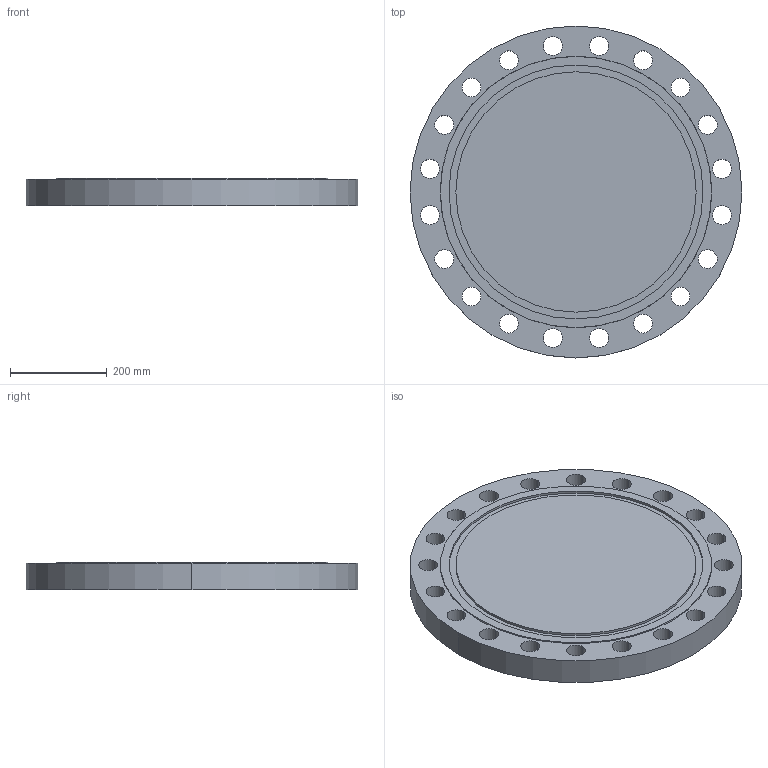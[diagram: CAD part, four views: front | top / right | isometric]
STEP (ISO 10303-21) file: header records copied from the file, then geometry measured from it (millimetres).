
FILE_DESCRIPTION (( 'STEP AP214' ), '1' );
FILE_NAME ('PN40 DN450 Type 05 - Type D Face.STEP', '2018-12-29T02:45:57', ( '' ), ( '' ), 'SwSTEP 2.0', 'SolidWorks 2019', '' );
FILE_SCHEMA (( 'AUTOMOTIVE_DESIGN' ));
Length unit declared in the file: millimetre
Products named in the file (1): PN40 DN450 Type 05 - Type D Face
Bounding box: 685 x 685 x 57 mm (x, y, z)
Volume: 19336082.8 mm3; surface area: 961383.5 mm2
Topology: 1 solids, 1 shells, 53 faces, 144 edges, 96 vertices
Faces by surface type: cylinder 46, plane 5, cone 2
Entity records: 1848 total; most frequent: DIRECTION 348, CARTESIAN_POINT 294, ORIENTED_EDGE 288, AXIS2_PLACEMENT_3D 150, EDGE_CURVE 144, CIRCLE 96, VERTEX_POINT 96, EDGE_LOOP 96
